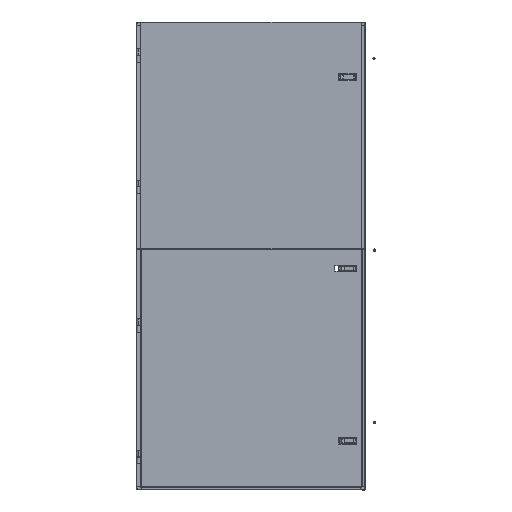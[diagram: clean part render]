
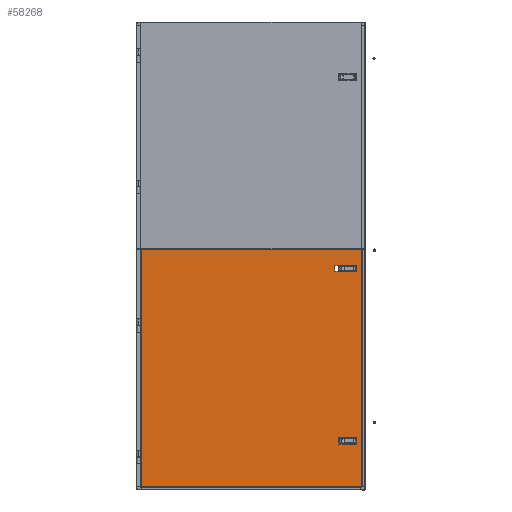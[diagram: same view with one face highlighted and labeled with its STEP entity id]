
A CAD part, top view. The second image highlights one B-rep face of the part: STEP entity #58268.
In plain terms, the highlighted planar face has unit normal (0, 0, -1).
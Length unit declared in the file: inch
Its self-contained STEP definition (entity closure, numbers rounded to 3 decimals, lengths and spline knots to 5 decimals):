
#17 = EDGE_CURVE ( 'NONE', #24876, #51070, #69379, .T. ) ;
#917 = VERTEX_POINT ( 'NONE', #1688 ) ;
#924 = VECTOR ( 'NONE', #66666, 39.37008 ) ;
#930 = CARTESIAN_POINT ( 'NONE',  ( 7.77491, 44.41063, 0. ) ) ;
#1660 = ORIENTED_EDGE ( 'NONE', *, *, #4703, .F. ) ;
#1688 = CARTESIAN_POINT ( 'NONE',  ( 47.16186, 9.99551, 0. ) ) ;
#1955 = LINE ( 'NONE', #44896, #31602 ) ;
#4703 = EDGE_CURVE ( 'NONE', #48710, #33071, #44430, .T. ) ;
#5291 = LINE ( 'NONE', #65588, #62802 ) ;
#5877 = LINE ( 'NONE', #61957, #33745 ) ;
#6437 = EDGE_CURVE ( 'NONE', #40835, #13150, #17442, .T. ) ;
#6614 = DIRECTION ( 'NONE',  ( 0., 1., 0. ) ) ;
#6668 = CARTESIAN_POINT ( 'NONE',  ( 48.07396, 1.08038, 0. ) ) ;
#6710 = DIRECTION ( 'NONE',  ( -1., 0., 0. ) ) ;
#6848 = ORIENTED_EDGE ( 'NONE', *, *, #43816, .F. ) ;
#7694 = EDGE_LOOP ( 'NONE', ( #22305, #6848, #37654, #29901 ) ) ;
#7805 = VECTOR ( 'NONE', #72162, 39.37008 ) ;
#7896 = EDGE_CURVE ( 'NONE', #51070, #48710, #24368, .T. ) ;
#8416 = ORIENTED_EDGE ( 'NONE', *, *, #24282, .F. ) ;
#8897 = CARTESIAN_POINT ( 'NONE',  ( 44.10186, 9.99551, 0. ) ) ;
#9409 = LINE ( 'NONE', #37785, #39085 ) ;
#9604 = ORIENTED_EDGE ( 'NONE', *, *, #17, .F. ) ;
#10075 = EDGE_CURVE ( 'NONE', #54034, #917, #66741, .T. ) ;
#11450 = DIRECTION ( 'NONE',  ( 1., 0., 0. ) ) ;
#13150 = VERTEX_POINT ( 'NONE', #62626 ) ;
#17442 = LINE ( 'NONE', #61089, #924 ) ;
#17489 = CARTESIAN_POINT ( 'NONE',  ( 48.07396, 0.99551, 0. ) ) ;
#17495 = CARTESIAN_POINT ( 'NONE',  ( 44.10186, 8.99551, 0. ) ) ;
#17947 = ORIENTED_EDGE ( 'NONE', *, *, #10075, .F. ) ;
#19557 = EDGE_LOOP ( 'NONE', ( #17947, #69662, #53990, #8416 ) ) ;
#20502 = EDGE_LOOP ( 'NONE', ( #1660, #21244, #9604, #29110 ) ) ;
#21244 = ORIENTED_EDGE ( 'NONE', *, *, #7896, .F. ) ;
#21401 = CARTESIAN_POINT ( 'NONE',  ( 47.16186, 9.99551, 0. ) ) ;
#22305 = ORIENTED_EDGE ( 'NONE', *, *, #58400, .F. ) ;
#22965 = VECTOR ( 'NONE', #28080, 39.37008 ) ;
#23027 = VERTEX_POINT ( 'NONE', #55283 ) ;
#24282 = EDGE_CURVE ( 'NONE', #917, #43849, #5877, .T. ) ;
#24368 = LINE ( 'NONE', #27663, #7805 ) ;
#24876 = VERTEX_POINT ( 'NONE', #930 ) ;
#26549 = EDGE_CURVE ( 'NONE', #33071, #24876, #5291, .T. ) ;
#26994 = DIRECTION ( 'NONE',  ( 1., 0., 0. ) ) ;
#27663 = CARTESIAN_POINT ( 'NONE',  ( 48.15884, 1.08038, 0. ) ) ;
#28080 = DIRECTION ( 'NONE',  ( 0., -1., 0. ) ) ;
#28452 = VECTOR ( 'NONE', #58774, 39.37008 ) ;
#28497 = CARTESIAN_POINT ( 'NONE',  ( 43.21186, 41.49551, 0. ) ) ;
#28555 = DIRECTION ( 'NONE',  ( 0., -1., 0. ) ) ;
#29110 = ORIENTED_EDGE ( 'NONE', *, *, #26549, .F. ) ;
#29146 = EDGE_CURVE ( 'NONE', #43849, #33462, #40759, .T. ) ;
#29184 = CARTESIAN_POINT ( 'NONE',  ( 47.16186, 40.49551, 0. ) ) ;
#29569 = VECTOR ( 'NONE', #6614, 39.37008 ) ;
#29901 = ORIENTED_EDGE ( 'NONE', *, *, #6437, .F. ) ;
#31602 = VECTOR ( 'NONE', #11450, 39.37008 ) ;
#33071 = VERTEX_POINT ( 'NONE', #54536 ) ;
#33449 = CARTESIAN_POINT ( 'NONE',  ( 47.16186, 40.49551, 0. ) ) ;
#33462 = VERTEX_POINT ( 'NONE', #58120 ) ;
#33585 = AXIS2_PLACEMENT_3D ( 'NONE', #60044, #71195, #37906 ) ;
#33745 = VECTOR ( 'NONE', #28555, 39.37008 ) ;
#35223 = FACE_BOUND ( 'NONE', #19557, .T. ) ;
#37009 = FACE_OUTER_BOUND ( 'NONE', #20502, .T. ) ;
#37444 = VERTEX_POINT ( 'NONE', #28497 ) ;
#37654 = ORIENTED_EDGE ( 'NONE', *, *, #55297, .F. ) ;
#37785 = CARTESIAN_POINT ( 'NONE',  ( 43.21186, 40.49551, 0. ) ) ;
#37906 = DIRECTION ( 'NONE',  ( 1., 0., 0. ) ) ;
#39002 = CARTESIAN_POINT ( 'NONE',  ( 7.77491, 1.08038, 0. ) ) ;
#39085 = VECTOR ( 'NONE', #43400, 39.37008 ) ;
#39575 = LINE ( 'NONE', #33449, #22965 ) ;
#40004 = DIRECTION ( 'NONE',  ( 0., 1., 0. ) ) ;
#40759 = LINE ( 'NONE', #50999, #68594 ) ;
#40835 = VERTEX_POINT ( 'NONE', #29184 ) ;
#43400 = DIRECTION ( 'NONE',  ( 0., 1., 0. ) ) ;
#43816 = EDGE_CURVE ( 'NONE', #37444, #23027, #1955, .T. ) ;
#43849 = VERTEX_POINT ( 'NONE', #45136 ) ;
#44430 = LINE ( 'NONE', #17489, #29569 ) ;
#44896 = CARTESIAN_POINT ( 'NONE',  ( 47.16186, 41.49551, 0. ) ) ;
#45136 = CARTESIAN_POINT ( 'NONE',  ( 47.16186, 8.99551, 0. ) ) ;
#48710 = VERTEX_POINT ( 'NONE', #6668 ) ;
#48816 = PLANE ( 'NONE',  #33585 ) ;
#50999 = CARTESIAN_POINT ( 'NONE',  ( 47.16186, 8.99551, 0. ) ) ;
#51070 = VERTEX_POINT ( 'NONE', #39002 ) ;
#51917 = VECTOR ( 'NONE', #26994, 39.37008 ) ;
#53881 = LINE ( 'NONE', #17495, #65215 ) ;
#53990 = ORIENTED_EDGE ( 'NONE', *, *, #29146, .F. ) ;
#54034 = VERTEX_POINT ( 'NONE', #8897 ) ;
#54536 = CARTESIAN_POINT ( 'NONE',  ( 48.07396, 44.41063, 0. ) ) ;
#55283 = CARTESIAN_POINT ( 'NONE',  ( 47.16186, 41.49551, 0. ) ) ;
#55297 = EDGE_CURVE ( 'NONE', #13150, #37444, #9409, .T. ) ;
#58120 = CARTESIAN_POINT ( 'NONE',  ( 44.10186, 8.99551, 0. ) ) ;
#58268 = ADVANCED_FACE ( 'NONE', ( #37009, #64878, #35223 ), #48816, .F. ) ;
#58400 = EDGE_CURVE ( 'NONE', #23027, #40835, #39575, .T. ) ;
#58774 = DIRECTION ( 'NONE',  ( 0., -1., 0. ) ) ;
#58947 = CARTESIAN_POINT ( 'NONE',  ( 7.77491, 0.99551, 0. ) ) ;
#60044 = CARTESIAN_POINT ( 'NONE',  ( 48.15884, 0.99551, 0. ) ) ;
#61089 = CARTESIAN_POINT ( 'NONE',  ( 47.16186, 40.49551, 0. ) ) ;
#61957 = CARTESIAN_POINT ( 'NONE',  ( 47.16186, 8.99551, 0. ) ) ;
#62626 = CARTESIAN_POINT ( 'NONE',  ( 43.21186, 40.49551, 0. ) ) ;
#62802 = VECTOR ( 'NONE', #71139, 39.37008 ) ;
#64878 = FACE_BOUND ( 'NONE', #7694, .T. ) ;
#65215 = VECTOR ( 'NONE', #40004, 39.37008 ) ;
#65588 = CARTESIAN_POINT ( 'NONE',  ( 48.15884, 44.41063, 0. ) ) ;
#66666 = DIRECTION ( 'NONE',  ( -1., 0., 0. ) ) ;
#66741 = LINE ( 'NONE', #21401, #51917 ) ;
#67250 = EDGE_CURVE ( 'NONE', #33462, #54034, #53881, .T. ) ;
#68594 = VECTOR ( 'NONE', #6710, 39.37008 ) ;
#69379 = LINE ( 'NONE', #58947, #28452 ) ;
#69662 = ORIENTED_EDGE ( 'NONE', *, *, #67250, .F. ) ;
#71139 = DIRECTION ( 'NONE',  ( -1., 0., 0. ) ) ;
#71195 = DIRECTION ( 'NONE',  ( 0., 0., 1. ) ) ;
#72162 = DIRECTION ( 'NONE',  ( 1., 0., 0. ) ) ;
